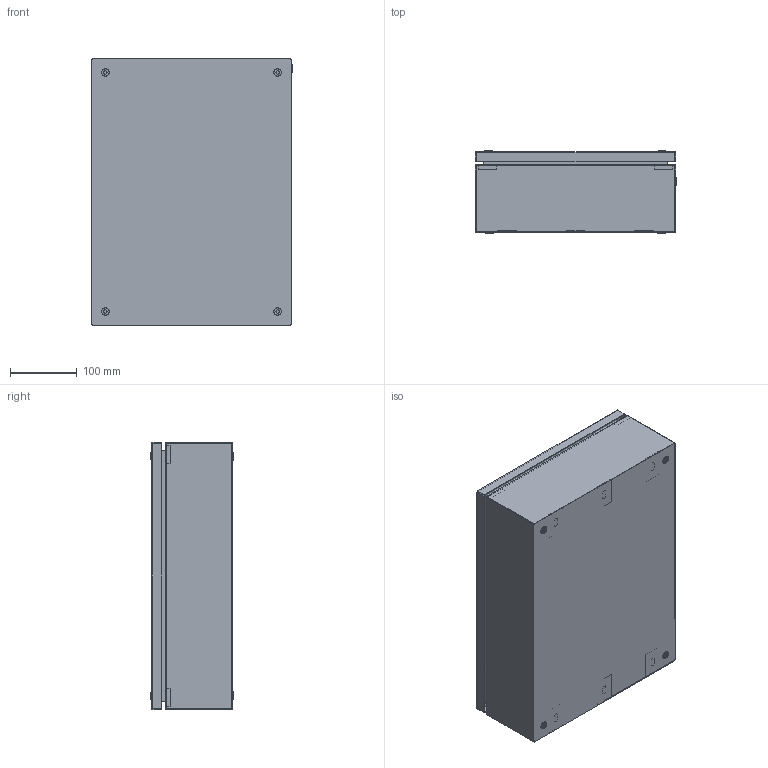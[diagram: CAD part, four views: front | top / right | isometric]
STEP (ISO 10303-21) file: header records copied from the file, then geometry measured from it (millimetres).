
FILE_DESCRIPTION(('Open CASCADE Model'),'2;1');
FILE_NAME('Open CASCADE Shape Model','2025-11-18T11:38:37',('Author'),( 'Open CASCADE'),'Open CASCADE STEP processor 7.8','Open CASCADE 7.8' ,'Unknown');
FILE_SCHEMA(('AUTOMOTIVE_DESIGN { 1 0 10303 214 1 1 1 1 }'));
Length unit declared in the file: millimetre
Products named in the file (18): Compound1; Compound2; Compound3; Compound4; Solid1; Solid2; Solid3; Solid4; Solid5; Solid6; Compound5; Compound6; Solid7; Solid8; Solid9; Solid10; Solid11; Solid12
Assembly tree (33 placements, depth 5):
  Compound1
    Compound2
      Compound3
        Compound4
          Solid1
          Solid2  x2
          Solid3  x2
          Solid4  x2
          Solid5
        Solid6
      Compound5
        Compound6
          Solid7
          Solid5
        Solid8
      Solid9  x4
      Solid10  x4
      Solid11  x4
    Solid12  x4
Bounding box: 301.5 x 123.79 x 400 mm (x, y, z)
Volume: 693465.4 mm3; surface area: 1004401.2 mm2
Topology: 28 solids, 28 shells, 970 faces, 2613 edges, 1728 vertices
Faces by surface type: plane 693, cylinder 151, cone 48, bspline 40, torus 30, sphere 8
Full cylindrical faces by diameter (mm): 4 x22, 4.134 x4, 5 x9, 5.2 x4, 5.3 x4, 5.5 x4, 6 x2, 6.5 x4, 7.5 x6, 7.8 x4, 8 x4, 8.5 x5, 9 x1, 9.1 x1, 11.5 x4, 12 x1, 13.5 x4, 15.791 x4
Entity records: 16602 total; most frequent: CARTESIAN_POINT 5021, ORIENTED_EDGE 2432, DIRECTION 2174, EDGE_CURVE 1216, VERTEX_POINT 804, LINE 792, VECTOR 792, AXIS2_PLACEMENT_3D 691
